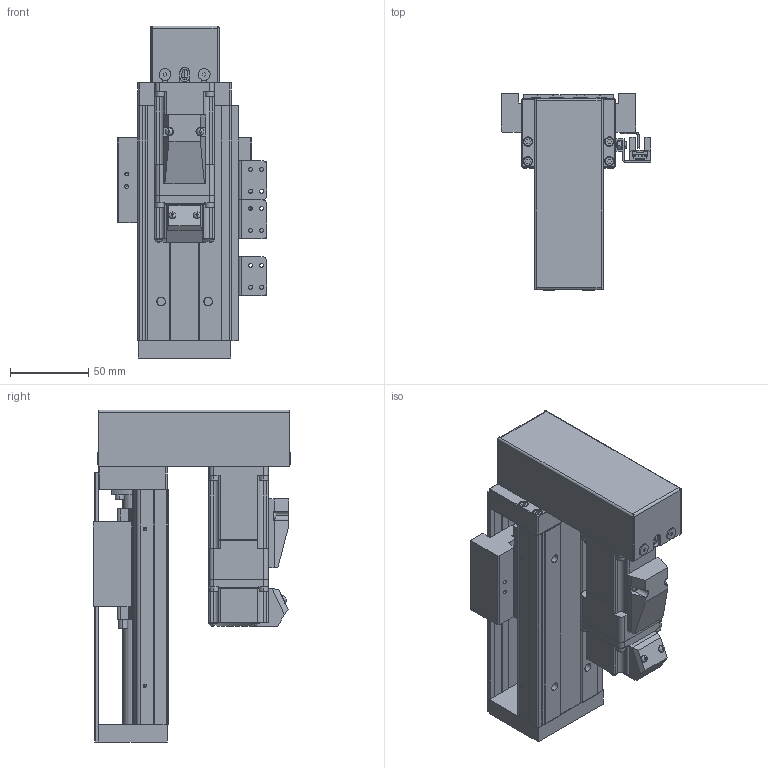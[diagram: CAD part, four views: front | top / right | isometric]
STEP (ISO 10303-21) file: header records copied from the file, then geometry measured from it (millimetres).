
FILE_DESCRIPTION (( 'STEP AP203' ), '1' );
FILE_NAME ('KH60D10C-150A1-H2MCS1.STEP', '2022-06-08T09:34:52', ( '' ), ( '' ), 'SwSTEP 2.0', 'SolidWorks 2016', '' );
FILE_SCHEMA (( 'CONFIG_CONTROL_DESIGN' ));
Length unit declared in the file: millimetre
Products named in the file (71): KK60-04-07; 内六角圆柱头螺钉M3×18; PM-Y65; 鞠褒蹟譫M3; 囀鞠褒麥芛蹟隊M3x5; 侂狟萇儂P10B; 囀鞠褒す埴芛蹟隊M3℅5; KK60-08-01; 綴釱; 晦埴芛M3X6蹟隊; B-KK60-A1-F0C; KH60-500; KK60-02-02; KK60-02-03; 錨璃2; KH60D10C-150A1-H2MCS1; KK60-02-04; KH86-08-SX674; 内六角圆柱头螺钉M3×10; 216々湍; 蛌諉啣; KK60-01-02-XXXX; KH86-08-(SX674); KH60-02-0000-M; KK60-02-01-H0; KK60-01-02-XXXX_KK60-01-02-150; KK60-02-01-H0_KK60-02-01-H0&H1
Assembly tree (46 placements, depth 3):
  内六角圆柱头螺钉M3×18
  PM-Y65
  鞠褒蹟譫M3
  囀鞠褒麥芛蹟隊M3x5
  PM-Y65
Bounding box: 95.4 x 126.3 x 212 mm (x, y, z)
Volume: 546586.6 mm3; surface area: 207190.8 mm2
Topology: 48 solids, 48 shells, 2732 faces, 7084 edges, 4533 vertices
Faces by surface type: plane 1419, cylinder 632, cone 319, bspline 280, torus 70, sphere 12
Entity records: 70014 total; most frequent: CARTESIAN_POINT 16054, ORIENTED_EDGE 10276, DIRECTION 9015, EDGE_CURVE 5138, VERTEX_POINT 3367, VECTOR 3275, LINE 3275, AXIS2_PLACEMENT_3D 2870
